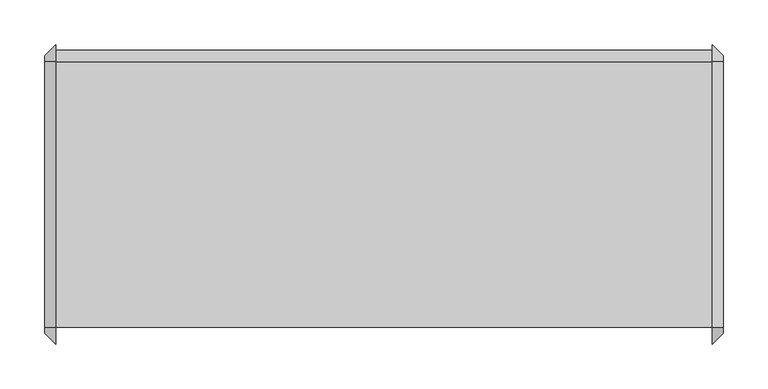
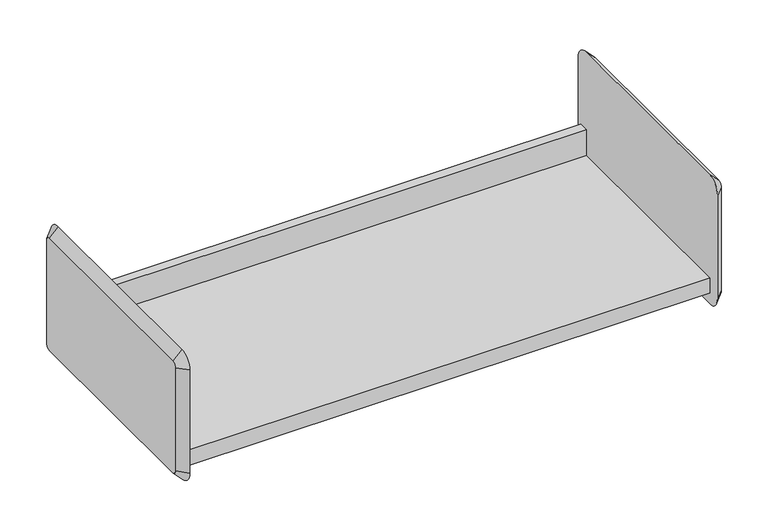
"""IFC4 building model written with IfcOpenShell, lengths in millimetres: furniture geometry."""

from ifc_helpers import new_model, si_unit, frame, origin, place, context, project, spatial, polyline, circle_curve, outline, extrude, source, transform, mapped, element, save
from ifc_brep_helpers import plane_surface, revolved_surface, advanced_brep


def furniture_04e1aa75(model_context):
    return source(origin(), model_context, "Body", "SolidModel", [
        extrude(outline(polyline([(-136.525, 1699.07458), (161.925, 1699.07458), (161.925, 1737.17458), (174.625, 1737.17458), (174.625, 1733.99958), (165.1, 1733.99958), (165.1, 1695.89958), (-133.35, 1695.89958), (-133.35, 1676.84958), (-136.525, 1676.84958), (-136.525, 1699.07458)])), frame((-492.2420045, 0.0, 0.0), z_axis=(1.0, 0.0, 0.0), x_axis=(0.0, 1.0, 0.0)), (0.0, 0.0, 1.0), 736.6),
        advanced_brep(
        [(257.0579955, 161.925, 1838.77458), (257.0579955, -136.525, 1838.77458), (257.0579955, -142.875, 1832.42458), (257.0579955, -142.875, 1680.02458), (257.0579955, -136.525, 1673.67458), (257.0579955, 161.925, 1673.67458), (257.0579955, 168.275, 1680.02458), (257.0579955, 168.275, 1832.42458), (244.3579955, 161.925, 1851.47458), (244.3579955, 180.975, 1832.42458), (244.3579955, 180.975, 1680.02458), (244.3579955, 161.925, 1660.97458), (244.3579955, -136.525, 1660.97458), (244.3579955, -155.575, 1680.02458), (244.3579955, -155.575, 1832.42458), (244.3579955, -136.525, 1851.47458)],
        [
            (0, 1),
            (1, 2, circle_curve(frame((257.0579955, -136.525, 1832.42458), z_axis=(1.0, 2.0730084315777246e-12, -2.1529444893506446e-12), x_axis=(2.15291077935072e-12, 0.0, 1.0)), 6.35)),
            (2, 3),
            (3, 4, circle_curve(frame((257.0579955, -136.525, 1680.02458), z_axis=(1.0, 2.0610180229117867e-12, 2.06767936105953e-12), x_axis=(2.061060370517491e-12, -1.0, 0.0)), 6.35)),
            (4, 5),
            (5, 6, circle_curve(frame((257.0579955, 161.925, 1680.02458), z_axis=(1.0, 2.0889956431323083e-12, -2.06767936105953e-12), x_axis=(-2.0676547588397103e-12, 0.0, -1.0)), 6.35)),
            (6, 7),
            (7, 0, circle_curve(frame((257.0579955, 161.925, 1832.42458), z_axis=(1.0, 2.0783375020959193e-12, 2.003730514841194e-12), x_axis=(-2.0783313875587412e-12, 1.0, 0.0)), 6.35)),
            (8, 9, circle_curve(frame((244.3579955, 161.925, 1832.42458), z_axis=(-1.0, -2.0783375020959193e-12, -2.003730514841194e-12), x_axis=(-2.0783313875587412e-12, 1.0, 0.0)), 19.05)),
            (9, 10),
            (10, 11, circle_curve(frame((244.3579955, 161.925, 1680.02458), z_axis=(-1.0, -2.0889956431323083e-12, 2.06767936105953e-12), x_axis=(-2.0676547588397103e-12, 0.0, -1.0)), 19.05)),
            (11, 12),
            (12, 13, circle_curve(frame((244.3579955, -136.525, 1680.02458), z_axis=(-1.0, -2.0610180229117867e-12, -2.06767936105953e-12), x_axis=(2.061060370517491e-12, -1.0, 0.0)), 19.05)),
            (13, 14),
            (14, 15, circle_curve(frame((244.3579955, -136.525, 1832.42458), z_axis=(-1.0, -2.0730084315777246e-12, 2.1529444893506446e-12), x_axis=(2.15291077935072e-12, 0.0, 1.0)), 19.05)),
            (15, 8),
            (15, 1),
            (0, 8),
            (14, 2),
            (13, 3),
            (12, 4),
            (11, 5),
            (10, 6),
            (9, 7),
        ],
        [
            plane_surface(frame((257.0579955, 12.7, 1756.22458), z_axis=(1.0, 0.0, 0.0), x_axis=(0.0, -1.0, 0.0))),
            plane_surface(frame((244.3579955, 12.7, 1756.22458), z_axis=(-1.0, 0.0, 0.0), x_axis=(0.0, -1.0, 0.0))),
            plane_surface(frame((244.3579955, 12.7, 1851.47458), z_axis=(0.7071067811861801, 0.0, 0.707106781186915), x_axis=(0.0, -1.0, 0.0))),
            revolved_surface(polyline([(257.0579955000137, -136.525, 1838.7745799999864), (244.3579955, -136.525, 1851.47458)]), (263.4079955, -136.525, 1832.42458), (-1.0, -2.0730084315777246e-12, 2.1529444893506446e-12)),
            plane_surface(frame((244.3579955, -155.575, 1756.22458), z_axis=(0.7071067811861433, -0.7071067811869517, 0.0), x_axis=(0.0, 0.0, -1.0))),
            revolved_surface(polyline([(257.0579955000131, -142.87499999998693, 1680.02458), (244.35799549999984, -155.5750000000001, 1680.02458)]), (263.4079955, -136.525, 1680.02458), (-1.0, -2.0610180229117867e-12, -2.06767936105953e-12)),
            plane_surface(frame((244.3579955, 12.7, 1660.97458), z_axis=(0.7071067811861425, 0.0, -0.7071067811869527), x_axis=(0.0, 1.0, 0.0))),
            revolved_surface(polyline([(257.0579955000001, 161.925, 1673.67458), (244.3579954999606, 161.925, 1660.9745799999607)]), (263.4079955, 161.925, 1680.02458), (-1.0, -2.0889956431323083e-12, 2.06767936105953e-12)),
            plane_surface(frame((244.3579955, 180.975, 1756.22458), z_axis=(0.7071067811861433, 0.7071067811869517, 0.0), x_axis=(0.0, 0.0, 1.0))),
            revolved_surface(polyline([(257.0579955, 168.275, 1832.42458), (244.3579954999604, 180.97500000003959, 1832.42458)]), (263.4079955, 161.925, 1832.42458), (-1.0, -2.0783375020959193e-12, -2.003730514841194e-12)),
        ],
        [
            (0, [[1, 2, 3, 4, 5, 6, 7, 8]]),
            (1, [[9, 10, 11, 12, 13, 14, 15, 16]]),
            (2, [[-16, 17, -1, 18]]),
            (3, [[-15, 19, -2, -17]]),
            (4, [[-14, 20, -3, -19]]),
            (5, [[-13, 21, -4, -20]]),
            (6, [[-12, 22, -5, -21]]),
            (7, [[-11, 23, -6, -22]]),
            (8, [[-10, 24, -7, -23]]),
            (9, [[-9, -18, -8, -24]]),
        ],
    ),
        advanced_brep(
        [(-504.9420045, -136.525, 1838.77458), (-504.9420045, 161.925, 1838.77458), (-504.9420045, 168.275, 1832.42458), (-504.9420045, 168.275, 1680.02458), (-504.9420045, 161.925, 1673.67458), (-504.9420045, -136.525, 1673.67458), (-504.9420045, -142.875, 1680.02458), (-504.9420045, -142.875, 1832.42458), (-492.2420045, -136.525, 1851.47458), (-492.2420045, -155.575, 1832.42458), (-492.2420045, -155.575, 1680.02458), (-492.2420045, -136.525, 1660.97458), (-492.2420045, 161.925, 1660.97458), (-492.2420045, 180.975, 1680.02458), (-492.2420045, 180.975, 1832.42458), (-492.2420045, 161.925, 1851.47458)],
        [
            (0, 1),
            (1, 2, circle_curve(frame((-504.9420045, 161.925, 1832.42458), z_axis=(-1.0, 0.0, 0.0), x_axis=(0.0, 0.0, 1.0)), 6.35)),
            (2, 3),
            (3, 4, circle_curve(frame((-504.9420045, 161.925, 1680.02458), z_axis=(-1.0, 0.0, 0.0), x_axis=(0.0, 1.0, 0.0)), 6.35)),
            (4, 5),
            (5, 6, circle_curve(frame((-504.9420045, -136.525, 1680.02458), z_axis=(-1.0, 0.0, 0.0), x_axis=(0.0, 0.0, -1.0)), 6.35)),
            (6, 7),
            (7, 0, circle_curve(frame((-504.9420045, -136.525, 1832.42458), z_axis=(-1.0, 0.0, 0.0), x_axis=(0.0, -1.0, 0.0)), 6.35)),
            (8, 9, circle_curve(frame((-492.2420045, -136.525, 1832.42458), z_axis=(1.0, 0.0, 0.0), x_axis=(0.0, -1.0, 0.0)), 19.05)),
            (9, 10),
            (10, 11, circle_curve(frame((-492.2420045, -136.525, 1680.02458), z_axis=(1.0, 0.0, 0.0), x_axis=(0.0, 0.0, -1.0)), 19.05)),
            (11, 12),
            (12, 13, circle_curve(frame((-492.2420045, 161.925, 1680.02458), z_axis=(1.0, 0.0, 0.0), x_axis=(0.0, 1.0, 0.0)), 19.05)),
            (13, 14),
            (14, 15, circle_curve(frame((-492.2420045, 161.925, 1832.42458), z_axis=(1.0, 0.0, 0.0), x_axis=(0.0, 0.0, 1.0)), 19.05)),
            (15, 8),
            (15, 1),
            (0, 8),
            (14, 2),
            (13, 3),
            (12, 4),
            (11, 5),
            (10, 6),
            (9, 7),
        ],
        [
            plane_surface(frame((-504.9420045, 12.7, 1756.22458), z_axis=(-1.0, 0.0, 0.0), x_axis=(0.0, -1.0, 0.0))),
            plane_surface(frame((-492.2420045, 12.7, 1756.22458), z_axis=(1.0, 0.0, 0.0), x_axis=(0.0, -1.0, 0.0))),
            plane_surface(frame((-492.2420045, 12.7, 1851.47458), z_axis=(-0.7071067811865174, 0.0, 0.7071067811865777), x_axis=(0.0, 1.0, 0.0))),
            revolved_surface(polyline([(-504.9420045, 161.925, 1838.77458), (-492.2420045, 161.925, 1851.47458)]), (-511.2920045, 161.925, 1832.42458), (1.0, 0.0, 0.0)),
            plane_surface(frame((-492.2420045, 180.975, 1756.22458), z_axis=(-0.7071067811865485, 0.7071067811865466, 0.0), x_axis=(0.0, 0.0, -1.0))),
            revolved_surface(polyline([(-504.9420045, 168.27500000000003, 1680.02458), (-492.2420045, 180.975, 1680.02458)]), (-511.2920045, 161.925, 1680.02458), (1.0, 0.0, 0.0)),
            plane_surface(frame((-492.2420045, 12.7, 1660.97458), z_axis=(-0.707106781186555, 0.0, -0.70710678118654), x_axis=(0.0, -1.0, 0.0))),
            revolved_surface(polyline([(-504.9420045, -136.525, 1673.67458), (-492.2420045, -136.525, 1660.97458)]), (-511.2920045, -136.525, 1680.02458), (1.0, 0.0, 0.0)),
            plane_surface(frame((-492.2420045, -155.575, 1756.22458), z_axis=(-0.7071067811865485, -0.7071067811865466, 0.0), x_axis=(0.0, 0.0, 1.0))),
            revolved_surface(polyline([(-504.9420045, -142.87500000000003, 1832.42458), (-492.2420045, -155.575, 1832.42458)]), (-511.2920045, -136.525, 1832.42458), (1.0, 0.0, 0.0)),
        ],
        [
            (0, [[1, 2, 3, 4, 5, 6, 7, 8]]),
            (1, [[9, 10, 11, 12, 13, 14, 15, 16]]),
            (2, [[-16, 17, -1, 18]]),
            (3, [[-15, 19, -2, -17]]),
            (4, [[-14, 20, -3, -19]]),
            (5, [[-13, 21, -4, -20]]),
            (6, [[-12, 22, -5, -21]]),
            (7, [[-11, 23, -6, -22]]),
            (8, [[-10, 24, -7, -23]]),
            (9, [[-9, -18, -8, -24]]),
        ],
    ),
    ])


if __name__ == "__main__":
    model = new_model("IFC4")
    model_context = context("Model", 3, world=origin())
    ifc_project = project(units=[si_unit("LENGTHUNIT", "METRE", prefix="MILLI")], contexts=[model_context])
    site = spatial("IfcSite", under=ifc_project)
    building = spatial("IfcBuilding", under=site)
    placement = place(None, origin())
    furniture_shape = furniture_04e1aa75(model_context)
    element("IfcFurniture", 1, ObjectType="HermanMiller_ActionOffice_A3220_B-StyleStorageDisplay : Shelf 13\"D x 30\"W", at=placement, inside=building, context=model_context, shape_type="MappedRepresentation", body=[
        mapped(furniture_shape, transform((0.0, 0.0, 0.0), x_axis=(1.0, 0.0, 0.0), y_axis=(0.0, 1.0, 0.0), z_axis=(0.0, 0.0, 1.0))),
    ])
    save(model, "model.ifc")
